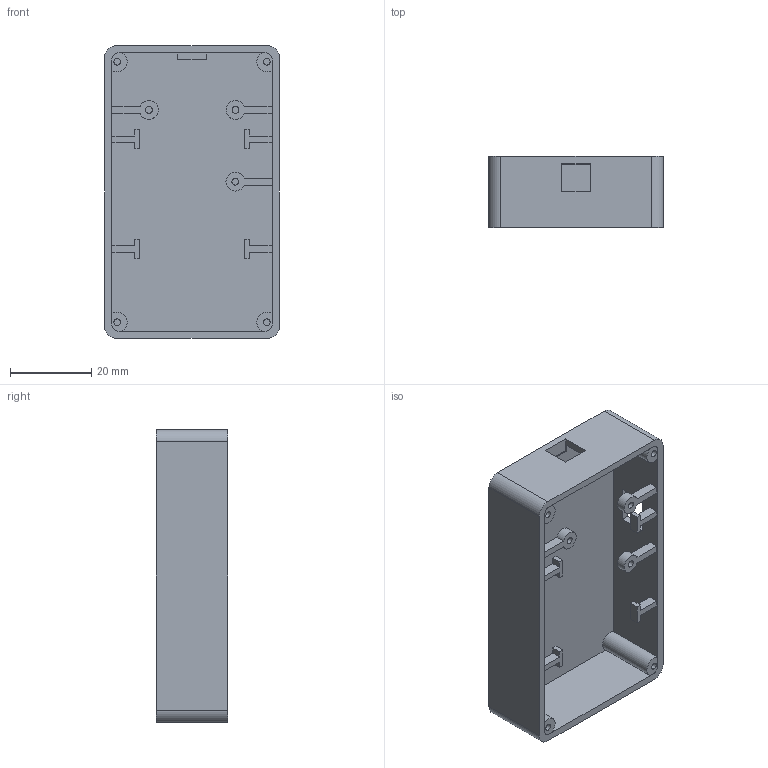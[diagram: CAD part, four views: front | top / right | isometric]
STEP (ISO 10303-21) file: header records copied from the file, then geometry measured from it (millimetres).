
FILE_DESCRIPTION(('Open CASCADE Model'),'2;1');
FILE_NAME('Open CASCADE Shape Model','2026-10-19T03:30:13',('Author'),( 'Open CASCADE'),'Open CASCADE STEP processor 7.9','Open CASCADE 7.9' ,'Unknown');
FILE_SCHEMA(('AUTOMOTIVE_DESIGN { 1 0 10303 214 1 1 1 1 }'));
Length unit declared in the file: millimetre
Products named in the file (1): Open CASCADE STEP translator 7.9 2
Bounding box: 43 x 17.5 x 72 mm (x, y, z)
Volume: 13175.3 mm3; surface area: 14507.2 mm2
Topology: 1 solids, 1 shells, 113 faces, 300 edges, 200 vertices
Faces by surface type: plane 83, cylinder 30
Full cylindrical faces by diameter (mm): 1.64 x8, 1.68 x3, 4.6 x3
Entity records: 7368 total; most frequent: CARTESIAN_POINT 1553, DIRECTION 1000, LINE 603, VECTOR 603, ORIENTED_EDGE 600, PCURVE 600, DEFINITIONAL_REPRESENTATION 600, EDGE_CURVE 300
